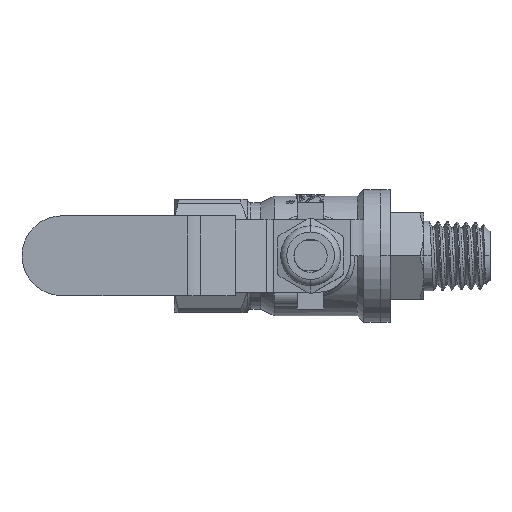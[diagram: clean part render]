
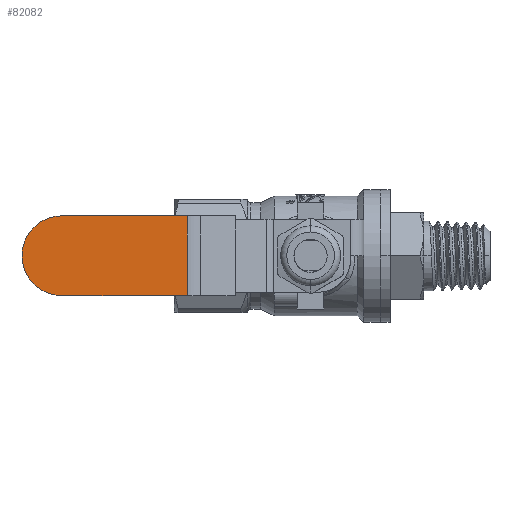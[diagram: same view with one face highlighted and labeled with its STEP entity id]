
A CAD part, top view. The second image highlights one B-rep face of the part: STEP entity #82082.
In plain terms, the highlighted planar face has unit normal (0, 0, 1).
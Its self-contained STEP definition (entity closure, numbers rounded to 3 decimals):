
#81866 = PLANE('',#81867);
#81867 = AXIS2_PLACEMENT_3D('',#81868,#81869,#81870);
#81868 = CARTESIAN_POINT('',(-19.186,-12.693,
    19.864));
#81869 = DIRECTION('',(0.,1.,0.));
#81870 = DIRECTION('',(-1.,0.,0.));
#81927 = PLANE('',#81928);
#81928 = AXIS2_PLACEMENT_3D('',#81929,#81930,#81931);
#81929 = CARTESIAN_POINT('',(-19.186,-0.693,
    19.864));
#81930 = DIRECTION('',(0.,1.,0.));
#81931 = DIRECTION('',(-1.,0.,0.));
#82016 = CYLINDRICAL_SURFACE('',#82017,6.);
#82017 = AXIS2_PLACEMENT_3D('',#82018,#82019,#82020);
#82018 = CARTESIAN_POINT('',(-37.425,-6.693,
    25.364));
#82019 = DIRECTION('',(0.,0.,1.));
#82020 = DIRECTION('',(0.,1.,0.));
#82049 = CYLINDRICAL_SURFACE('',#82050,6.);
#82050 = AXIS2_PLACEMENT_3D('',#82051,#82052,#82053);
#82051 = CARTESIAN_POINT('',(-37.425,-6.693,
    19.864));
#82052 = DIRECTION('',(0.,0.,-1.));
#82053 = DIRECTION('',(0.,-1.,0.));
#82082 = ADVANCED_FACE('',(#82083),#82098,.F.);
#82083 = FACE_BOUND('',#82084,.T.);
#82084 = EDGE_LOOP('',(#82085,#82120,#82148,#82171,#82199));
#82085 = ORIENTED_EDGE('',*,*,#82086,.T.);
#82086 = EDGE_CURVE('',#82087,#82089,#82091,.T.);
#82087 = VERTEX_POINT('',#82088);
#82088 = CARTESIAN_POINT('',(-37.425,-0.693,
    25.364));
#82089 = VERTEX_POINT('',#82090);
#82090 = CARTESIAN_POINT('',(-43.425,-6.693,
    25.364));
#82091 = SURFACE_CURVE('',#82092,(#82097,#82113),.PCURVE_S1.);
#82092 = CIRCLE('',#82093,6.);
#82093 = AXIS2_PLACEMENT_3D('',#82094,#82095,#82096);
#82094 = CARTESIAN_POINT('',(-37.425,-6.693,
    25.364));
#82095 = DIRECTION('',(0.,0.,1.));
#82096 = DIRECTION('',(-1.,0.,0.));
#82097 = PCURVE('',#82098,#82103);
#82098 = PLANE('',#82099);
#82099 = AXIS2_PLACEMENT_3D('',#82100,#82101,#82102);
#82100 = CARTESIAN_POINT('',(-43.425,-0.693,
    25.364));
#82101 = DIRECTION('',(0.,0.,-1.));
#82102 = DIRECTION('',(-1.,0.,0.));
#82103 = DEFINITIONAL_REPRESENTATION('',(#82104),#82112);
#82104 = ( BOUNDED_CURVE() B_SPLINE_CURVE(2,(#82105,#82106,#82107,#82108
    ,#82109,#82110,#82111),.UNSPECIFIED.,.T.,.F.) 
B_SPLINE_CURVE_WITH_KNOTS((1,2,2,2,2,1),(-2.094,0.,
    2.094,4.189,6.283,8.378),
.UNSPECIFIED.) CURVE() GEOMETRIC_REPRESENTATION_ITEM() 
RATIONAL_B_SPLINE_CURVE((1.,0.5,1.,0.5,1.,0.5,1.)) REPRESENTATION_ITEM(
  '') );
#82105 = CARTESIAN_POINT('',(0.,-6.));
#82106 = CARTESIAN_POINT('',(0.,-16.392));
#82107 = CARTESIAN_POINT('',(-9.,-11.196));
#82108 = CARTESIAN_POINT('',(-18.,-6.));
#82109 = CARTESIAN_POINT('',(-9.,-0.804));
#82110 = CARTESIAN_POINT('',(0.,4.392));
#82111 = CARTESIAN_POINT('',(0.,-6.));
#82112 = ( GEOMETRIC_REPRESENTATION_CONTEXT(2) 
PARAMETRIC_REPRESENTATION_CONTEXT() REPRESENTATION_CONTEXT('2D SPACE',''
  ) );
#82113 = PCURVE('',#82049,#82114);
#82114 = DEFINITIONAL_REPRESENTATION('',(#82115),#82119);
#82115 = LINE('',#82116,#82117);
#82116 = CARTESIAN_POINT('',(7.854,-5.5));
#82117 = VECTOR('',#82118,1.);
#82118 = DIRECTION('',(-1.,0.));
#82119 = ( GEOMETRIC_REPRESENTATION_CONTEXT(2) 
PARAMETRIC_REPRESENTATION_CONTEXT() REPRESENTATION_CONTEXT('2D SPACE',''
  ) );
#82120 = ORIENTED_EDGE('',*,*,#82121,.T.);
#82121 = EDGE_CURVE('',#82089,#82122,#82124,.T.);
#82122 = VERTEX_POINT('',#82123);
#82123 = CARTESIAN_POINT('',(-37.425,-12.693,
    25.364));
#82124 = SURFACE_CURVE('',#82125,(#82130,#82141),.PCURVE_S1.);
#82125 = CIRCLE('',#82126,6.);
#82126 = AXIS2_PLACEMENT_3D('',#82127,#82128,#82129);
#82127 = CARTESIAN_POINT('',(-37.425,-6.693,
    25.364));
#82128 = DIRECTION('',(0.,0.,1.));
#82129 = DIRECTION('',(-1.,0.,0.));
#82130 = PCURVE('',#82098,#82131);
#82131 = DEFINITIONAL_REPRESENTATION('',(#82132),#82140);
#82132 = ( BOUNDED_CURVE() B_SPLINE_CURVE(2,(#82133,#82134,#82135,#82136
    ,#82137,#82138,#82139),.UNSPECIFIED.,.T.,.F.) 
B_SPLINE_CURVE_WITH_KNOTS((1,2,2,2,2,1),(-2.094,0.,
    2.094,4.189,6.283,8.378),
.UNSPECIFIED.) CURVE() GEOMETRIC_REPRESENTATION_ITEM() 
RATIONAL_B_SPLINE_CURVE((1.,0.5,1.,0.5,1.,0.5,1.)) REPRESENTATION_ITEM(
  '') );
#82133 = CARTESIAN_POINT('',(0.,-6.));
#82134 = CARTESIAN_POINT('',(0.,-16.392));
#82135 = CARTESIAN_POINT('',(-9.,-11.196));
#82136 = CARTESIAN_POINT('',(-18.,-6.));
#82137 = CARTESIAN_POINT('',(-9.,-0.804));
#82138 = CARTESIAN_POINT('',(0.,4.392));
#82139 = CARTESIAN_POINT('',(0.,-6.));
#82140 = ( GEOMETRIC_REPRESENTATION_CONTEXT(2) 
PARAMETRIC_REPRESENTATION_CONTEXT() REPRESENTATION_CONTEXT('2D SPACE',''
  ) );
#82141 = PCURVE('',#82016,#82142);
#82142 = DEFINITIONAL_REPRESENTATION('',(#82143),#82147);
#82143 = LINE('',#82144,#82145);
#82144 = CARTESIAN_POINT('',(1.571,0.));
#82145 = VECTOR('',#82146,1.);
#82146 = DIRECTION('',(1.,0.));
#82147 = ( GEOMETRIC_REPRESENTATION_CONTEXT(2) 
PARAMETRIC_REPRESENTATION_CONTEXT() REPRESENTATION_CONTEXT('2D SPACE',''
  ) );
#82148 = ORIENTED_EDGE('',*,*,#82149,.T.);
#82149 = EDGE_CURVE('',#82122,#82150,#82152,.T.);
#82150 = VERTEX_POINT('',#82151);
#82151 = CARTESIAN_POINT('',(-18.556,-12.693,
    25.364));
#82152 = SURFACE_CURVE('',#82153,(#82157,#82164),.PCURVE_S1.);
#82153 = LINE('',#82154,#82155);
#82154 = CARTESIAN_POINT('',(-43.425,-12.693,
    25.364));
#82155 = VECTOR('',#82156,1.);
#82156 = DIRECTION('',(1.,0.,0.));
#82157 = PCURVE('',#82098,#82158);
#82158 = DEFINITIONAL_REPRESENTATION('',(#82159),#82163);
#82159 = LINE('',#82160,#82161);
#82160 = CARTESIAN_POINT('',(0.,-12.));
#82161 = VECTOR('',#82162,1.);
#82162 = DIRECTION('',(-1.,0.));
#82163 = ( GEOMETRIC_REPRESENTATION_CONTEXT(2) 
PARAMETRIC_REPRESENTATION_CONTEXT() REPRESENTATION_CONTEXT('2D SPACE',''
  ) );
#82164 = PCURVE('',#81866,#82165);
#82165 = DEFINITIONAL_REPRESENTATION('',(#82166),#82170);
#82166 = LINE('',#82167,#82168);
#82167 = CARTESIAN_POINT('',(24.239,5.5));
#82168 = VECTOR('',#82169,1.);
#82169 = DIRECTION('',(-1.,0.));
#82170 = ( GEOMETRIC_REPRESENTATION_CONTEXT(2) 
PARAMETRIC_REPRESENTATION_CONTEXT() REPRESENTATION_CONTEXT('2D SPACE',''
  ) );
#82171 = ORIENTED_EDGE('',*,*,#82172,.F.);
#82172 = EDGE_CURVE('',#82173,#82150,#82175,.T.);
#82173 = VERTEX_POINT('',#82174);
#82174 = CARTESIAN_POINT('',(-18.556,-0.693,
    25.364));
#82175 = SURFACE_CURVE('',#82176,(#82180,#82187),.PCURVE_S1.);
#82176 = LINE('',#82177,#82178);
#82177 = CARTESIAN_POINT('',(-18.556,-0.693,
    25.364));
#82178 = VECTOR('',#82179,1.);
#82179 = DIRECTION('',(0.,-1.,0.));
#82180 = PCURVE('',#82098,#82181);
#82181 = DEFINITIONAL_REPRESENTATION('',(#82182),#82186);
#82182 = LINE('',#82183,#82184);
#82183 = CARTESIAN_POINT('',(-24.869,0.));
#82184 = VECTOR('',#82185,1.);
#82185 = DIRECTION('',(0.,-1.));
#82186 = ( GEOMETRIC_REPRESENTATION_CONTEXT(2) 
PARAMETRIC_REPRESENTATION_CONTEXT() REPRESENTATION_CONTEXT('2D SPACE',''
  ) );
#82187 = PCURVE('',#82188,#82193);
#82188 = CYLINDRICAL_SURFACE('',#82189,3.5);
#82189 = AXIS2_PLACEMENT_3D('',#82190,#82191,#82192);
#82190 = CARTESIAN_POINT('',(-18.556,-0.693,
    21.864));
#82191 = DIRECTION('',(0.,-1.,0.));
#82192 = DIRECTION('',(1.,0.,0.));
#82193 = DEFINITIONAL_REPRESENTATION('',(#82194),#82198);
#82194 = LINE('',#82195,#82196);
#82195 = CARTESIAN_POINT('',(1.571,0.));
#82196 = VECTOR('',#82197,1.);
#82197 = DIRECTION('',(0.,1.));
#82198 = ( GEOMETRIC_REPRESENTATION_CONTEXT(2) 
PARAMETRIC_REPRESENTATION_CONTEXT() REPRESENTATION_CONTEXT('2D SPACE',''
  ) );
#82199 = ORIENTED_EDGE('',*,*,#82200,.F.);
#82200 = EDGE_CURVE('',#82087,#82173,#82201,.T.);
#82201 = SURFACE_CURVE('',#82202,(#82206,#82213),.PCURVE_S1.);
#82202 = LINE('',#82203,#82204);
#82203 = CARTESIAN_POINT('',(-43.425,-0.693,
    25.364));
#82204 = VECTOR('',#82205,1.);
#82205 = DIRECTION('',(1.,0.,0.));
#82206 = PCURVE('',#82098,#82207);
#82207 = DEFINITIONAL_REPRESENTATION('',(#82208),#82212);
#82208 = LINE('',#82209,#82210);
#82209 = CARTESIAN_POINT('',(0.,0.));
#82210 = VECTOR('',#82211,1.);
#82211 = DIRECTION('',(-1.,0.));
#82212 = ( GEOMETRIC_REPRESENTATION_CONTEXT(2) 
PARAMETRIC_REPRESENTATION_CONTEXT() REPRESENTATION_CONTEXT('2D SPACE',''
  ) );
#82213 = PCURVE('',#81927,#82214);
#82214 = DEFINITIONAL_REPRESENTATION('',(#82215),#82219);
#82215 = LINE('',#82216,#82217);
#82216 = CARTESIAN_POINT('',(24.239,5.5));
#82217 = VECTOR('',#82218,1.);
#82218 = DIRECTION('',(-1.,0.));
#82219 = ( GEOMETRIC_REPRESENTATION_CONTEXT(2) 
PARAMETRIC_REPRESENTATION_CONTEXT() REPRESENTATION_CONTEXT('2D SPACE',''
  ) );
